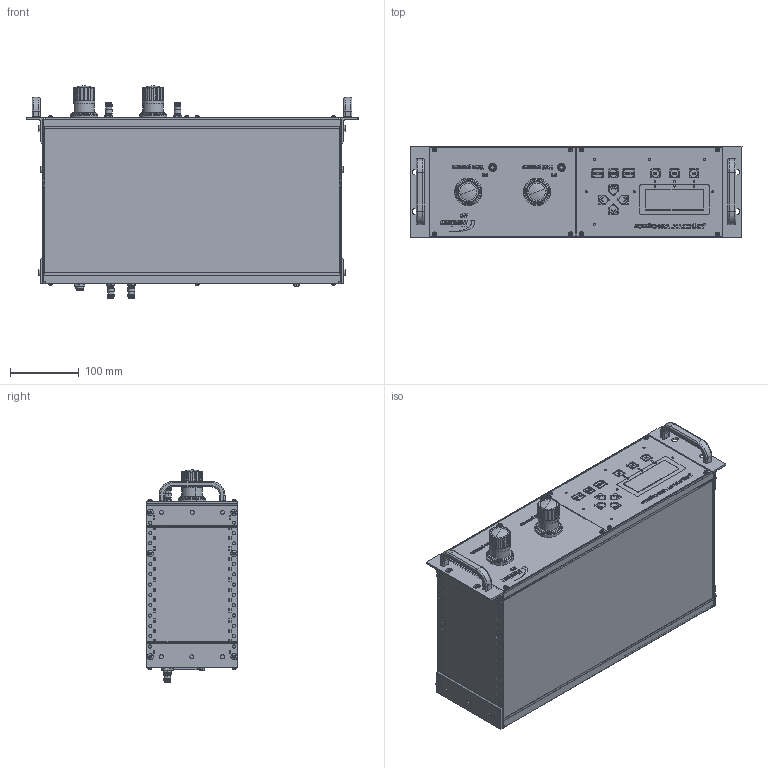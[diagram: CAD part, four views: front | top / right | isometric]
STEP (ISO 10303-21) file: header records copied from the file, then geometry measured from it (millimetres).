
FILE_DESCRIPTION (( 'STEP AP214' ), '1' );
FILE_NAME ('V200.STEP', '2018-01-04T08:33:38', ( '' ), ( '' ), 'SwSTEP 2.0', 'SolidWorks 2016', '' );
FILE_SCHEMA (( 'AUTOMOTIVE_DESIGN' ));
Length unit declared in the file: inch
Products named in the file (1): V200
Bounding box: 482.6 x 132.75 x 308.55 mm (x, y, z)
Surface area: 894216.2 mm2 (no closed solid volume)
Topology: 0 solids, 694 shells, 2992 faces, 14017 edges, 11514 vertices
Faces by surface type: plane 1358, cylinder 1167, bspline 286, cone 149, torus 28, sphere 4
Entity records: 168884 total; most frequent: CARTESIAN_POINT 66916, ORIENTED_EDGE 18400, DIRECTION 17479, EDGE_CURVE 13993, VERTEX_POINT 11514, LINE 6871, VECTOR 6871, AXIS2_PLACEMENT_3D 5304
